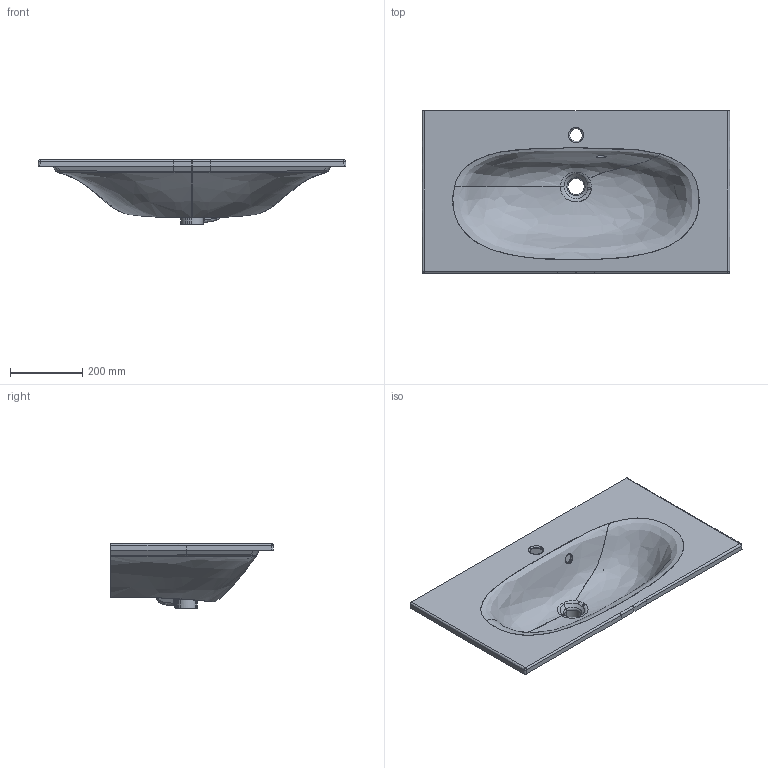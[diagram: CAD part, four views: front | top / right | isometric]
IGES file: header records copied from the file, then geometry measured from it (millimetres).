
Start section: START RECORD GO HERE.
Global section: file name: lavabo sosp 85 slim.igs; native system: IBM CATIA IGES - CATIA Version 5 Release 17 ; preprocessor: CATIA Version 5 Release 17 ; author: Luca; organization: PC-Luca; date: 20121108.152141; units: millimetre
Bounding box: 851.26 x 450.63 x 178.76 mm (x, y, z)
Surface area: 1146682.4 mm2 (no closed solid volume)
Topology: 0 solids, 0 shells, 403 faces, 2005 edges, 1997 vertices
Faces by surface type: bspline 403
